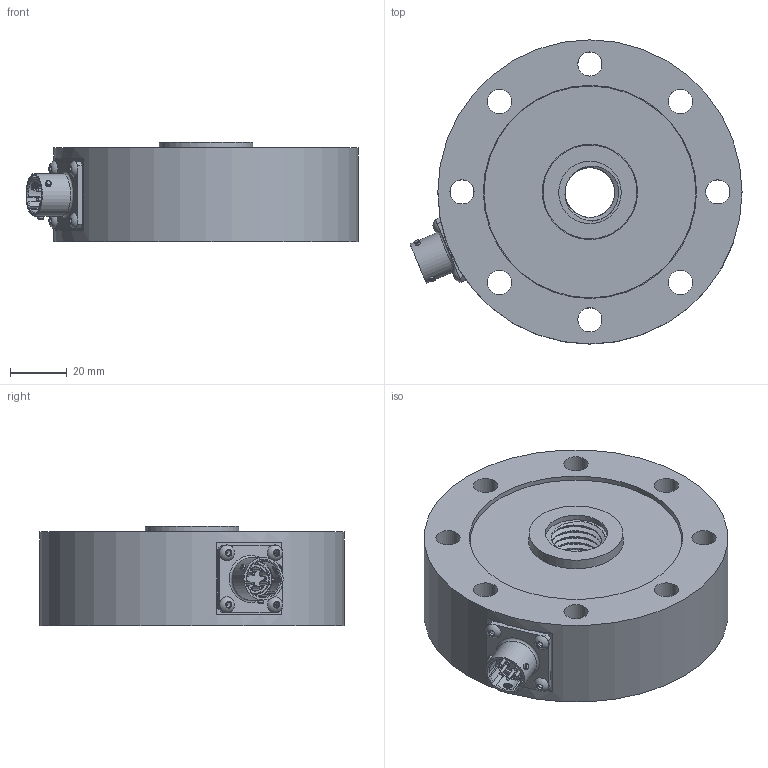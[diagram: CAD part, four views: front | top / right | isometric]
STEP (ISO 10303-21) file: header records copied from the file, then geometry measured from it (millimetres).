
FILE_DESCRIPTION(/* description */ (''),/* implementation_level */ '2;1');
FILE_NAME(/* name */ 'I:/New Datasheets/STEP Models/DSCC Size 1 Space Model v2.step',/* time_stamp */ '2018-09-24T16:04:01+01:00',/* author */ ('ollieVUKN3'),/* organization */ (''),/* preprocessor_version */ 'ST-DEVELOPER v17.2',/* originating_system */ 'Autodesk Translation Framework v7.6.0.251',/* authorisation */ '');
FILE_SCHEMA (('AUTOMOTIVE_DESIGN { 1 0 10303 214 3 1 1 }'));
Length unit declared in the file: millimetre
Products named in the file (2): DSCC Size 1 Space Model; DSCC Size 1 Space Model Body
Assembly tree (1 placements, depth 2):
  DSCC Size 1 Space Model
    DSCC Size 1 Space Model Body
Bounding box: 116.79 x 107 x 35 mm (x, y, z)
Volume: 247552 mm3; surface area: 45181 mm2
Topology: 1 solids, 16 shells, 583 faces, 1547 edges, 1051 vertices
Faces by surface type: plane 267, cylinder 156, bspline 81, cone 37, torus 22, sphere 20
Full cylindrical faces by diameter (mm): 1 x3, 1.009 x6, 1.165 x6, 1.2 x6, 1.4 x6, 1.52 x3, 1.6 x3, 2 x12, 2.03 x3, 2.2 x12, 2.529 x3, 3 x5, 3.2 x4, 8.5 x8, 10.25 x2, 10.9 x1, 11.05 x1, 11.35 x1, 12.55 x1, 13.85 x1, 13.9 x1, 14 x1, 14.95 x1, 15 x1, 17.519 x12, 20.293 x12, 22 x1, 33 x2, 33.5 x2, 74.5 x2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
Entity records: 24374 total; most frequent: CARTESIAN_POINT 10036, ORIENTED_EDGE 3080, DIRECTION 2766, EDGE_CURVE 1540, VERTEX_POINT 1051, AXIS2_PLACEMENT_3D 1034, LINE 698, VECTOR 698
